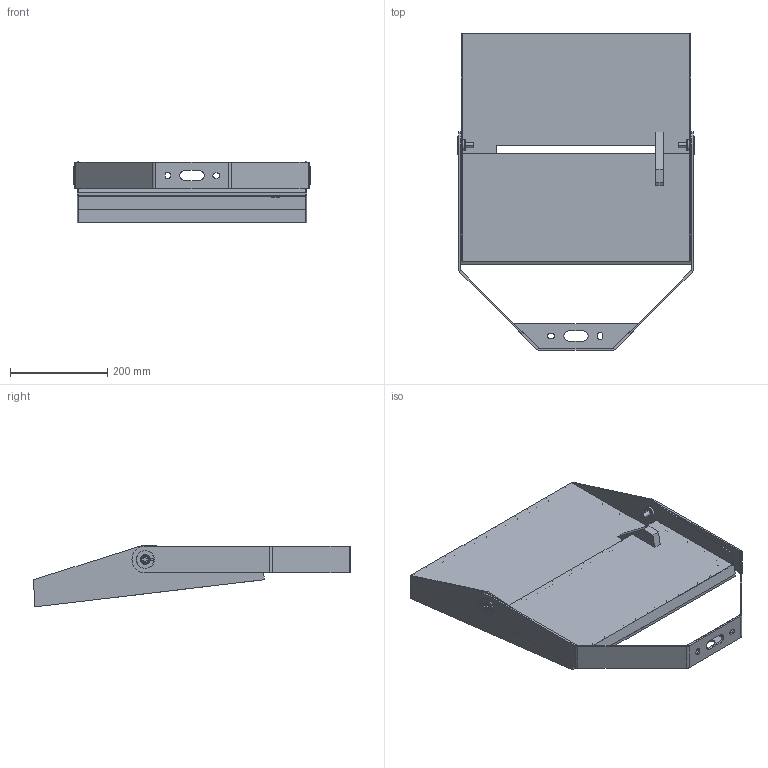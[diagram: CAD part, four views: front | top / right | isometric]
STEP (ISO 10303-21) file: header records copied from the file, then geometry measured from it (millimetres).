
FILE_DESCRIPTION((''),'2;1');
FILE_NAME('600W_144LED_SW0001','2025-07-24T14:50:50',('Piccioli'),(''),'CREO PARAMETRIC BY PTC INC, 2025010','CREO PARAMETRIC BY PTC INC, 2025010','');
FILE_SCHEMA(('CONFIG_CONTROL_DESIGN'));
Length unit declared in the file: millimetre
Products named in the file (1): 600W_144LED_SW0001
Bounding box: 487.23 x 651.39 x 127.3 mm (x, y, z)
Surface area: 1192155.9 mm2 (no closed solid volume)
Topology: 0 solids, 41 shells, 450 faces, 1371 edges, 926 vertices
Faces by surface type: plane 286, cylinder 102, cone 30, torus 28, sphere 4
Entity records: 15108 total; most frequent: CARTESIAN_POINT 2747, DIRECTION 2637, ORIENTED_EDGE 2260, EDGE_CURVE 1371, VECTOR 1005, LINE 1005, VERTEX_POINT 926, AXIS2_PLACEMENT_3D 816
